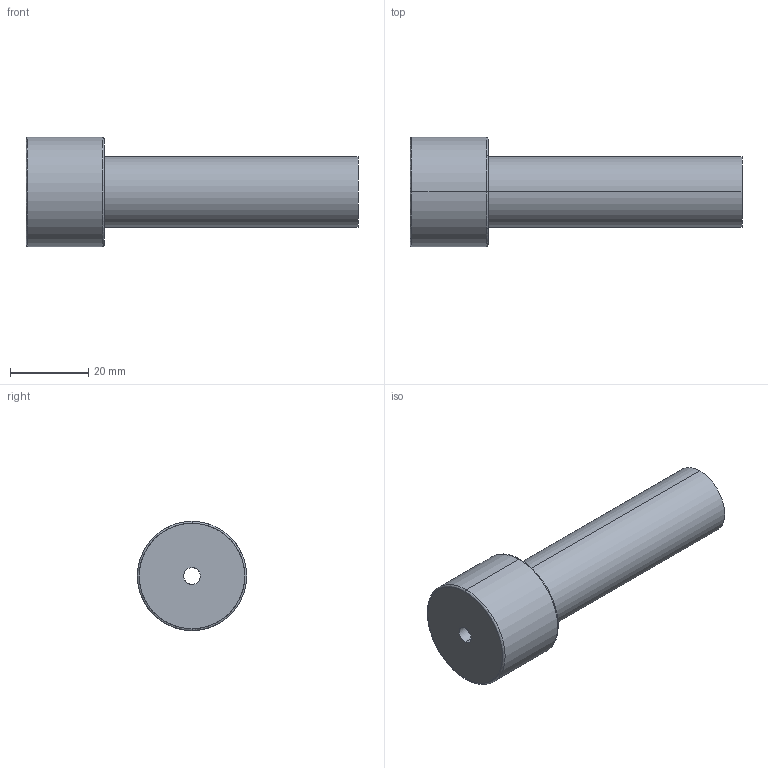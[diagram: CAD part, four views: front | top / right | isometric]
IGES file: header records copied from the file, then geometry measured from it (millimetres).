
Start section: START RECORD GO HERE.
Global section: file name: 367F-18X85.igs; native system: DASSAULT SYSTEMES CATIA V5 R20 - www.3ds.com; preprocessor: CATIA Version 5 Release 20 ; author: Utente; organization: NB04-ASUS; date: 20210324.171553; units: millimetre
Bounding box: 85 x 28 x 28 mm (x, y, z)
Surface area: 8297 mm2 (no closed solid volume)
Topology: 0 solids, 0 shells, 13 faces, 84 edges, 84 vertices
Faces by surface type: revolution 10, plane 3
